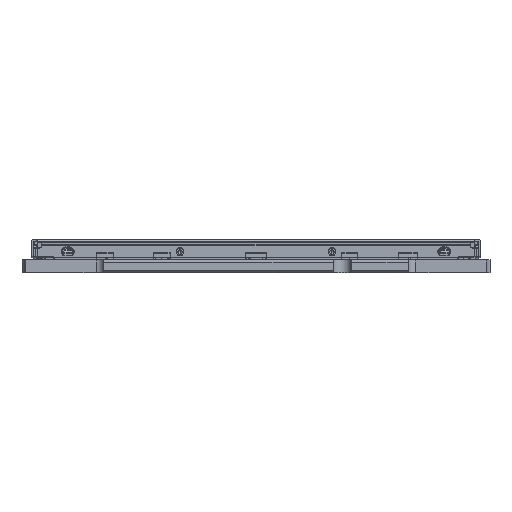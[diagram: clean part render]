
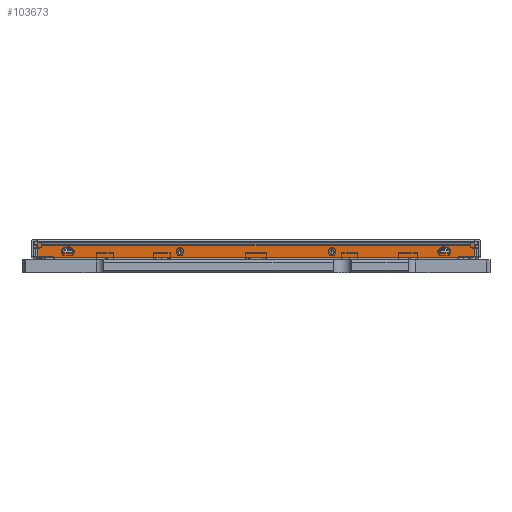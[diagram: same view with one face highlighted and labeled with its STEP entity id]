
A CAD part, left-side view. The second image highlights one B-rep face of the part: STEP entity #103673.
In plain terms, the highlighted planar face has unit normal (-1, 0, 0).
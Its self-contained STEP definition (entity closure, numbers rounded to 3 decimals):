
#94282=CARTESIAN_POINT('',(4.35,-0.83,4.95));
#94283=DIRECTION('',(-1.,0.,0.));
#94284=DIRECTION('',(0.,1.,0.));
#94285=AXIS2_PLACEMENT_3D('',#94282,#94283,#94284);
#94290=CARTESIAN_POINT('',(4.35,-0.83,4.95));
#94291=DIRECTION('',(-1.,0.,0.));
#94292=DIRECTION('',(0.,-1.,0.));
#94293=AXIS2_PLACEMENT_3D('',#94290,#94291,#94292);
#94298=CARTESIAN_POINT('',(4.35,-0.83,-4.95));
#94299=DIRECTION('',(-1.,0.,0.));
#94300=DIRECTION('',(0.,1.,0.));
#94301=AXIS2_PLACEMENT_3D('',#94298,#94299,#94300);
#94306=CARTESIAN_POINT('',(4.35,-0.83,-4.95));
#94307=DIRECTION('',(-1.,0.,0.));
#94308=DIRECTION('',(0.,-1.,0.));
#94309=AXIS2_PLACEMENT_3D('',#94306,#94307,#94308);
#94314=DIRECTION('',(0.,0.,1.));
#94315=VECTOR('',#94314,0.78);
#94316=CARTESIAN_POINT('',(4.35,-0.85,11.885));
#94317=LINE('',#94316,#94315);
#94321=CARTESIAN_POINT('',(4.35,-0.498,12.395));
#94322=CARTESIAN_POINT('',(4.35,-0.498,12.421));
#94323=CARTESIAN_POINT('',(4.35,-0.507,12.472));
#94324=CARTESIAN_POINT('',(4.35,-0.552,12.547));
#94325=CARTESIAN_POINT('',(4.35,-0.627,12.61));
#94326=CARTESIAN_POINT('',(4.35,-0.727,12.653));
#94327=CARTESIAN_POINT('',(4.35,-0.807,12.665));
#94328=CARTESIAN_POINT('',(4.35,-0.85,12.665));
#94333=DIRECTION('',(0.,0.,1.));
#94334=VECTOR('',#94333,0.24);
#94335=CARTESIAN_POINT('',(4.35,-0.498,12.155));
#94336=LINE('',#94335,#94334);
#94340=CARTESIAN_POINT('',(4.35,-0.85,11.885));
#94341=CARTESIAN_POINT('',(4.35,-0.807,11.885));
#94342=CARTESIAN_POINT('',(4.35,-0.727,11.897));
#94343=CARTESIAN_POINT('',(4.35,-0.627,11.94));
#94344=CARTESIAN_POINT('',(4.35,-0.552,12.003));
#94345=CARTESIAN_POINT('',(4.35,-0.507,12.078));
#94346=CARTESIAN_POINT('',(4.35,-0.498,12.129));
#94347=CARTESIAN_POINT('',(4.35,-0.498,12.155));
#94352=DIRECTION('',(0.,0.,1.));
#94353=VECTOR('',#94352,0.78);
#94354=CARTESIAN_POINT('',(4.35,-0.85,-12.665));
#94355=LINE('',#94354,#94353);
#94359=CARTESIAN_POINT('',(4.35,-0.498,-12.155));
#94360=CARTESIAN_POINT('',(4.35,-0.498,-12.129));
#94361=CARTESIAN_POINT('',(4.35,-0.507,-12.078));
#94362=CARTESIAN_POINT('',(4.35,-0.552,-12.003));
#94363=CARTESIAN_POINT('',(4.35,-0.627,-11.94));
#94364=CARTESIAN_POINT('',(4.35,-0.727,-11.897));
#94365=CARTESIAN_POINT('',(4.35,-0.807,-11.885));
#94366=CARTESIAN_POINT('',(4.35,-0.85,-11.885));
#94371=DIRECTION('',(0.,0.,1.));
#94372=VECTOR('',#94371,0.24);
#94373=CARTESIAN_POINT('',(4.35,-0.498,-12.395));
#94374=LINE('',#94373,#94372);
#94378=CARTESIAN_POINT('',(4.35,-0.85,-12.665));
#94379=CARTESIAN_POINT('',(4.35,-0.807,-12.665));
#94380=CARTESIAN_POINT('',(4.35,-0.727,-12.653));
#94381=CARTESIAN_POINT('',(4.35,-0.627,-12.61));
#94382=CARTESIAN_POINT('',(4.35,-0.552,-12.547));
#94383=CARTESIAN_POINT('',(4.35,-0.507,-12.472));
#94384=CARTESIAN_POINT('',(4.35,-0.498,-12.421));
#94385=CARTESIAN_POINT('',(4.35,-0.498,-12.395));
#94390=CARTESIAN_POINT('',(4.35,-0.99,-14.07));
#94391=DIRECTION('',(-1.,0.,0.));
#94392=DIRECTION('',(0.,0.,-1.));
#94393=AXIS2_PLACEMENT_3D('',#94390,#94391,#94392);
#94398=DIRECTION('',(0.,-1.,0.));
#94399=VECTOR('',#94398,0.81);
#94400=CARTESIAN_POINT('',(4.35,-0.18,-14.27));
#94401=LINE('',#94400,#94399);
#94405=DIRECTION('',(0.,1.,0.));
#94406=VECTOR('',#94405,0.81);
#94407=CARTESIAN_POINT('',(4.35,-0.99,14.27));
#94408=LINE('',#94407,#94406);
#94412=CARTESIAN_POINT('',(4.35,-0.99,14.07));
#94413=DIRECTION('',(-1.,0.,0.));
#94414=DIRECTION('',(0.,-1.,0.));
#94415=AXIS2_PLACEMENT_3D('',#94412,#94413,#94414);
#94420=DIRECTION('',(0.,0.,1.));
#94421=VECTOR('',#94420,28.14);
#94422=CARTESIAN_POINT('',(4.35,-1.19,-14.07));
#94423=LINE('',#94422,#94421);
#94874=DIRECTION('',(0.,0.,-1.));
#94875=VECTOR('',#94874,28.54);
#94876=CARTESIAN_POINT('',(4.35,-0.18,14.27));
#94877=LINE('',#94876,#94875);
#97796=CARTESIAN_POINT('',(4.35,-0.18,14.27));
#97798=VERTEX_POINT('',#97796);
#97800=CARTESIAN_POINT('',(4.35,-0.18,-14.27));
#97801=VERTEX_POINT('',#97800);
#97984=CARTESIAN_POINT('',(4.35,-0.69,4.95));
#97985=CARTESIAN_POINT('',(4.35,-0.97,4.95));
#97986=VERTEX_POINT('',#97984);
#97987=VERTEX_POINT('',#97985);
#97996=CARTESIAN_POINT('',(4.35,-0.69,-4.95));
#97997=CARTESIAN_POINT('',(4.35,-0.97,-4.95));
#97998=VERTEX_POINT('',#97996);
#97999=VERTEX_POINT('',#97997);
#98114=CARTESIAN_POINT('',(4.35,-0.85,11.885));
#98115=CARTESIAN_POINT('',(4.35,-0.85,12.665));
#98116=VERTEX_POINT('',#98114);
#98117=VERTEX_POINT('',#98115);
#98118=VERTEX_POINT('',#94347);
#98119=CARTESIAN_POINT('',(4.35,-0.498,12.395));
#98120=VERTEX_POINT('',#98119);
#98136=CARTESIAN_POINT('',(4.35,-0.85,-12.665));
#98137=CARTESIAN_POINT('',(4.35,-0.85,-11.885));
#98138=VERTEX_POINT('',#98136);
#98139=VERTEX_POINT('',#98137);
#98140=VERTEX_POINT('',#94385);
#98141=CARTESIAN_POINT('',(4.35,-0.498,-12.155));
#98142=VERTEX_POINT('',#98141);
#98990=CARTESIAN_POINT('',(4.35,-0.99,-14.27));
#98991=CARTESIAN_POINT('',(4.35,-1.19,-14.07));
#98992=VERTEX_POINT('',#98990);
#98993=VERTEX_POINT('',#98991);
#98998=CARTESIAN_POINT('',(4.35,-1.19,14.07));
#98999=CARTESIAN_POINT('',(4.35,-0.99,14.27));
#99000=VERTEX_POINT('',#98998);
#99001=VERTEX_POINT('',#98999);
#103624=CARTESIAN_POINT('',(4.35,0.,-14.27));
#103625=DIRECTION('',(-1.,0.,0.));
#103626=DIRECTION('',(0.,0.,-1.));
#103627=AXIS2_PLACEMENT_3D('',#103624,#103625,#103626);
#103628=PLANE('',#103627);
#103630=ORIENTED_EDGE('',*,*,#103629,.F.);
#103632=ORIENTED_EDGE('',*,*,#103631,.F.);
#103634=ORIENTED_EDGE('',*,*,#103633,.F.);
#103635=ORIENTED_EDGE('',*,*,#103601,.F.);
#103636=ORIENTED_EDGE('',*,*,#103614,.F.);
#103638=ORIENTED_EDGE('',*,*,#103637,.F.);
#103639=EDGE_LOOP('',(#103630,#103632,#103634,#103635,#103636,#103638));
#103640=FACE_OUTER_BOUND('',#103639,.F.);
#103642=ORIENTED_EDGE('',*,*,#103641,.T.);
#103644=ORIENTED_EDGE('',*,*,#103643,.T.);
#103645=EDGE_LOOP('',(#103642,#103644));
#103646=FACE_BOUND('',#103645,.F.);
#103648=ORIENTED_EDGE('',*,*,#103647,.T.);
#103650=ORIENTED_EDGE('',*,*,#103649,.F.);
#103652=ORIENTED_EDGE('',*,*,#103651,.F.);
#103654=ORIENTED_EDGE('',*,*,#103653,.F.);
#103655=EDGE_LOOP('',(#103648,#103650,#103652,#103654));
#103656=FACE_BOUND('',#103655,.F.);
#103658=ORIENTED_EDGE('',*,*,#103657,.T.);
#103660=ORIENTED_EDGE('',*,*,#103659,.F.);
#103662=ORIENTED_EDGE('',*,*,#103661,.F.);
#103664=ORIENTED_EDGE('',*,*,#103663,.F.);
#103665=EDGE_LOOP('',(#103658,#103660,#103662,#103664));
#103666=FACE_BOUND('',#103665,.F.);
#103668=ORIENTED_EDGE('',*,*,#103667,.T.);
#103670=ORIENTED_EDGE('',*,*,#103669,.T.);
#103671=EDGE_LOOP('',(#103668,#103670));
#103672=FACE_BOUND('',#103671,.F.);
#103673=ADVANCED_FACE('',(#103640,#103646,#103656,#103666,#103672),#103628,.T.);
#94286=CIRCLE('',#94285,0.14);
#94294=CIRCLE('',#94293,0.14);
#94302=CIRCLE('',#94301,0.14);
#94310=CIRCLE('',#94309,0.14);
#94329=B_SPLINE_CURVE_WITH_KNOTS('',3,(#94321,#94322,#94323,#94324,#94325,
#94326,#94327,#94328),.UNSPECIFIED.,.F.,.F.,(4,1,1,1,1,4),(0.,0.2,0.4,
0.6,0.8,1.),.UNSPECIFIED.);
#94348=B_SPLINE_CURVE_WITH_KNOTS('',3,(#94340,#94341,#94342,#94343,#94344,
#94345,#94346,#94347),.UNSPECIFIED.,.F.,.F.,(4,1,1,1,1,4),(0.,0.2,0.4,
0.6,0.8,1.),.UNSPECIFIED.);
#94367=B_SPLINE_CURVE_WITH_KNOTS('',3,(#94359,#94360,#94361,#94362,#94363,
#94364,#94365,#94366),.UNSPECIFIED.,.F.,.F.,(4,1,1,1,1,4),(0.,0.2,0.4,
0.6,0.8,1.),.UNSPECIFIED.);
#94386=B_SPLINE_CURVE_WITH_KNOTS('',3,(#94378,#94379,#94380,#94381,#94382,
#94383,#94384,#94385),.UNSPECIFIED.,.F.,.F.,(4,1,1,1,1,4),(0.,0.2,0.4,
0.6,0.8,1.),.UNSPECIFIED.);
#94394=CIRCLE('',#94393,0.2);
#94416=CIRCLE('',#94415,0.2);
#103601=EDGE_CURVE('',#99001,#97798,#94408,.T.);
#103614=EDGE_CURVE('',#99000,#99001,#94416,.T.);
#103629=EDGE_CURVE('',#98992,#98993,#94394,.T.);
#103631=EDGE_CURVE('',#97801,#98992,#94401,.T.);
#103633=EDGE_CURVE('',#97798,#97801,#94877,.T.);
#103637=EDGE_CURVE('',#98993,#99000,#94423,.T.);
#103641=EDGE_CURVE('',#97998,#97999,#94302,.T.);
#103643=EDGE_CURVE('',#97999,#97998,#94310,.T.);
#103647=EDGE_CURVE('',#98116,#98117,#94317,.T.);
#103649=EDGE_CURVE('',#98120,#98117,#94329,.T.);
#103651=EDGE_CURVE('',#98118,#98120,#94336,.T.);
#103653=EDGE_CURVE('',#98116,#98118,#94348,.T.);
#103657=EDGE_CURVE('',#98138,#98139,#94355,.T.);
#103659=EDGE_CURVE('',#98142,#98139,#94367,.T.);
#103661=EDGE_CURVE('',#98140,#98142,#94374,.T.);
#103663=EDGE_CURVE('',#98138,#98140,#94386,.T.);
#103667=EDGE_CURVE('',#97986,#97987,#94286,.T.);
#103669=EDGE_CURVE('',#97987,#97986,#94294,.T.);
